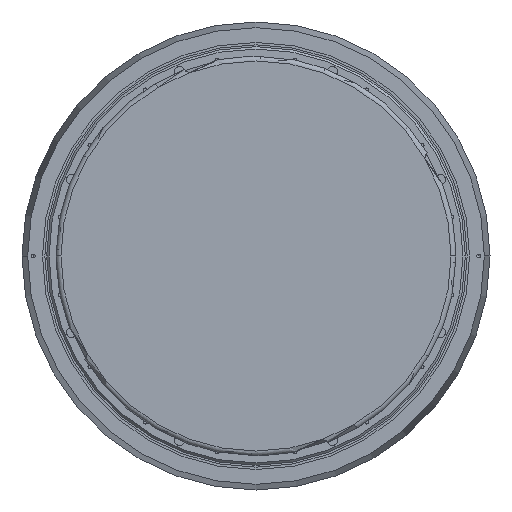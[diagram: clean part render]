
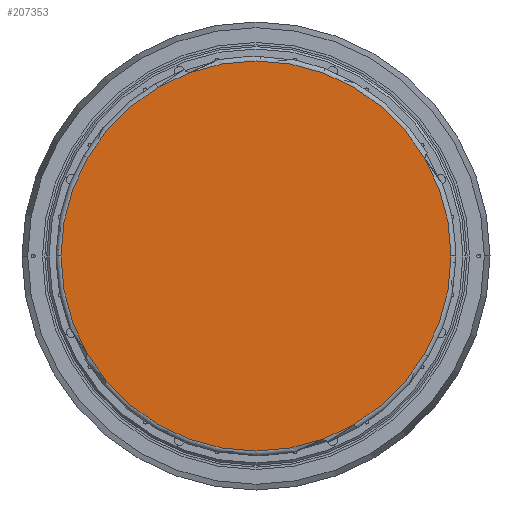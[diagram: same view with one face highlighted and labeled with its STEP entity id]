
A CAD part, front view. The second image highlights one B-rep face of the part: STEP entity #207353.
In plain terms, the highlighted planar face has unit normal (0, -1, 0).
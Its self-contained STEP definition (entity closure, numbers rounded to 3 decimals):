
#5844 = DIRECTION ( 'NONE',  ( 0., -1., 0. ) ) ;
#14443 = VERTEX_POINT ( 'NONE', #115056 ) ;
#16382 = CIRCLE ( 'NONE', #157328, 512.5 ) ;
#40378 = VERTEX_POINT ( 'NONE', #105308 ) ;
#44586 = ORIENTED_EDGE ( 'NONE', *, *, #48331, .T. ) ;
#47258 = EDGE_LOOP ( 'NONE', ( #84288, #44586 ) ) ;
#48331 = EDGE_CURVE ( 'NONE', #40378, #14443, #16382, .T. ) ;
#53651 = CARTESIAN_POINT ( 'NONE',  ( 0., 0., 0. ) ) ;
#69850 = DIRECTION ( 'NONE',  ( 0., 0., -1. ) ) ;
#84288 = ORIENTED_EDGE ( 'NONE', *, *, #149709, .T. ) ;
#92067 = DIRECTION ( 'NONE',  ( 0., -1., 0. ) ) ;
#101069 = AXIS2_PLACEMENT_3D ( 'NONE', #102139, #5844, #118360 ) ;
#101669 = FACE_OUTER_BOUND ( 'NONE', #47258, .T. ) ;
#102139 = CARTESIAN_POINT ( 'NONE',  ( 0., 0., 0. ) ) ;
#105308 = CARTESIAN_POINT ( 'NONE',  ( 512.5, 0., 0. ) ) ;
#115056 = CARTESIAN_POINT ( 'NONE',  ( -512.5, 0., 0. ) ) ;
#117648 = PLANE ( 'NONE',  #101069 ) ;
#118360 = DIRECTION ( 'NONE',  ( 0., 0., -1. ) ) ;
#149709 = EDGE_CURVE ( 'NONE', #14443, #40378, #180494, .T. ) ;
#157328 = AXIS2_PLACEMENT_3D ( 'NONE', #53651, #166304, #69850 ) ;
#166304 = DIRECTION ( 'NONE',  ( 0., -1., 0. ) ) ;
#180494 = CIRCLE ( 'NONE', #187746, 512.5 ) ;
#187746 = AXIS2_PLACEMENT_3D ( 'NONE', #188479, #92067, #204665 ) ;
#188479 = CARTESIAN_POINT ( 'NONE',  ( 0., 0., 0. ) ) ;
#204665 = DIRECTION ( 'NONE',  ( 0., 0., -1. ) ) ;
#207353 = ADVANCED_FACE ( 'NONE', ( #101669 ), #117648, .T. ) ;
